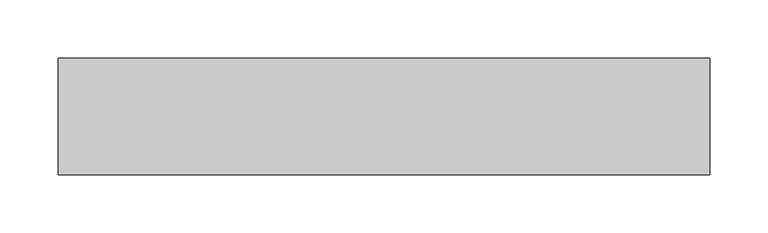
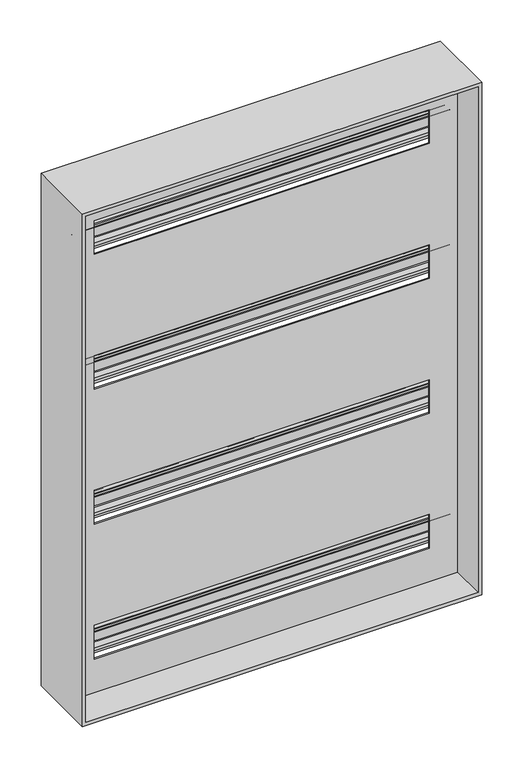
"""IFC4 building model written with IfcOpenShell, lengths in millimetres: electric distribution board geometry, DKC_Панель для модульного оборудования : DKC_Панель для модульного оборудования."""

from ifc_helpers import new_model, si_unit, frame, origin, place, context, project, spatial, polyline, circle_curve, faceted_brep, source, transform, mapped, element, save
from ifc_brep_helpers import plane_surface, cylinder_surface, revolved_surface, advanced_brep


def electric_distribution_board_6eff1b48(model_context):
    return source(origin(), model_context, "Body", "SolidModel", [
        advanced_brep(
        [(-265.0, -86.5000007, 1712.0000024), (-265.0, -96.4963965, 1712.0000024), (-265.0, -98.9999996, 1714.4999998), (-265.0, -99.0, 1717.4999982), (-265.0, -97.5000007, 1717.4999982), (-265.0, -97.5000007, 1714.5), (-265.0, -96.4999987, 1713.4999998), (-265.0, -86.4969876, 1713.499998), (-265.0, -83.9999996, 1710.9999998), (-265.0, -83.9999996, 1688.9999994), (-265.0, -86.5039195, 1686.5000024), (-265.0, -96.4999996, 1686.5000024), (-265.0, -97.4999996, 1685.5000004), (-265.0, -97.5000007, 1682.5000018), (-265.0, -99.0, 1682.5000018), (-265.0, -99.0, 1685.4999994), (-265.0, -96.4974135, 1687.999998), (-265.0, -86.4999996, 1687.999998), (-265.0, -85.4999996, 1689.0000001), (-265.0, -85.4999987, 1710.9999998), (265.0, -86.5000007, 1711.9999998), (265.0, -85.4999996, 1710.9999998), (265.0, -85.4999987, 1689.0000001), (265.0, -86.4999996, 1687.9999994), (265.0, -96.4974135, 1687.999998), (265.0, -98.9999996, 1685.4999994), (265.0, -99.0, 1682.5000018), (265.0, -97.5000007, 1682.5000018), (265.0, -97.5000007, 1685.5000004), (265.0, -96.4999996, 1686.4999994), (265.0, -86.5039195, 1686.5000024), (265.0, -83.9999996, 1688.9999994), (265.0, -83.9999996, 1710.9999998), (265.0, -86.4969876, 1713.499998), (265.0, -96.4999987, 1713.499998), (265.0, -97.4999996, 1714.4999998), (265.0, -97.5000007, 1717.4999982), (265.0, -99.0, 1717.4999982), (265.0, -99.0, 1714.4999998), (265.0, -96.4963965, 1712.0000024)],
        [
            (0, 1),
            (1, 2, circle_curve(frame((-265.0, -96.4999996, 1714.4999998), z_axis=(-1.0, 0.0, 0.0), x_axis=(0.0, 0.0, -1.0)), 2.5)),
            (2, 3),
            (3, 4),
            (4, 5),
            (5, 6, circle_curve(frame((-265.0, -96.4999996, 1714.4999998), z_axis=(1.0, 0.0, 0.0), x_axis=(0.0, 0.0, -1.0)), 1.0)),
            (6, 7),
            (7, 8, circle_curve(frame((-265.0, -86.4999996, 1710.9999998), z_axis=(-1.0, 0.0, 0.0), x_axis=(0.0, 0.0, -1.0)), 2.5)),
            (8, 9),
            (9, 10, circle_curve(frame((-265.0, -86.4999996, 1688.9999994), z_axis=(-1.0, 0.0, 0.0), x_axis=(0.0, 0.0, -1.0)), 2.5)),
            (10, 11),
            (11, 12, circle_curve(frame((-265.0, -96.4999996, 1685.4999994), z_axis=(1.0, 0.0, 0.0), x_axis=(0.0, 0.0, -1.0)), 1.0)),
            (12, 13),
            (13, 14),
            (14, 15),
            (15, 16, circle_curve(frame((-265.0, -96.4999996, 1685.4999994), z_axis=(-1.0, 0.0, 0.0), x_axis=(0.0, 0.0, -1.0)), 2.5)),
            (16, 17),
            (17, 18, circle_curve(frame((-265.0, -86.4999996, 1688.9999994), z_axis=(1.0, 0.0, 0.0), x_axis=(0.0, 0.0, -1.0)), 1.0)),
            (18, 19),
            (19, 0, circle_curve(frame((-265.0, -86.4999996, 1710.9999998), z_axis=(1.0, 0.0, 0.0), x_axis=(0.0, 0.0, -1.0)), 1.0)),
            (20, 21, circle_curve(frame((265.0, -86.4999996, 1710.9999998), z_axis=(-1.0, 0.0, 0.0), x_axis=(0.0, 0.0, -1.0)), 1.0)),
            (21, 22),
            (22, 23, circle_curve(frame((265.0, -86.4999996, 1688.9999994), z_axis=(-1.0, 0.0, 0.0), x_axis=(0.0, 0.0, -1.0)), 1.0)),
            (23, 24),
            (24, 25, circle_curve(frame((265.0, -96.4999996, 1685.4999994), z_axis=(1.0, 0.0, 0.0), x_axis=(0.0, 0.0, -1.0)), 2.5)),
            (25, 26),
            (26, 27),
            (27, 28),
            (28, 29, circle_curve(frame((265.0, -96.4999996, 1685.4999994), z_axis=(-1.0, 0.0, 0.0), x_axis=(0.0, 0.0, -1.0)), 1.0)),
            (29, 30),
            (30, 31, circle_curve(frame((265.0, -86.4999996, 1688.9999994), z_axis=(1.0, 0.0, 0.0), x_axis=(0.0, 0.0, -1.0)), 2.5)),
            (31, 32),
            (32, 33, circle_curve(frame((265.0, -86.4999996, 1710.9999998), z_axis=(1.0, 0.0, 0.0), x_axis=(0.0, 0.0, -1.0)), 2.5)),
            (33, 34),
            (34, 35, circle_curve(frame((265.0, -96.4999996, 1714.4999998), z_axis=(-1.0, 0.0, 0.0), x_axis=(0.0, 0.0, -1.0)), 1.0)),
            (35, 36),
            (36, 37),
            (37, 38),
            (38, 39, circle_curve(frame((265.0, -96.4999996, 1714.4999998), z_axis=(1.0, 0.0, 0.0), x_axis=(0.0, 0.0, -1.0)), 2.5)),
            (39, 20),
            (0, 20),
            (39, 1),
            (38, 2),
            (37, 3),
            (36, 4),
            (35, 5),
            (34, 6),
            (33, 7),
            (32, 8),
            (31, 9),
            (30, 10),
            (29, 11),
            (28, 12),
            (27, 13),
            (26, 14),
            (25, 15),
            (24, 16),
            (23, 17),
            (22, 18),
            (21, 19),
        ],
        [
            plane_surface(frame((-265.0, -96.4963965, 1712.0000024), z_axis=(-1.0, 0.0, 0.0), x_axis=(0.0, -1.0, 0.0))),
            plane_surface(frame((265.0, -96.4963965, 1712.0000024), z_axis=(1.0, 0.0, 0.0), x_axis=(0.0, 1.0, 0.0))),
            plane_surface(frame((-265.0, -86.5000007, 1712.0000024), z_axis=(0.0, 0.0, -1.0), x_axis=(1.0, 0.0, 0.0))),
            cylinder_surface(frame((265.0, -96.4999996, 1714.4999998), z_axis=(-1.0, 0.0, 0.0), x_axis=(0.0, 0.0, -1.0)), 2.5),
            plane_surface(frame((-265.0, -99.0, 1714.4999998), z_axis=(0.0, -1.0, 0.0), x_axis=(1.0, 0.0, 0.0))),
            plane_surface(frame((-265.0, -99.0, 1717.4999982), z_axis=(0.0, 0.0, 1.0), x_axis=(1.0, 0.0, 0.0))),
            plane_surface(frame((-265.0, -97.5000007, 1717.4999982), z_axis=(0.0, 1.0, 0.0), x_axis=(1.0, 0.0, 0.0))),
            revolved_surface(polyline([(265.0, -96.4999996, 1713.4999998), (-265.0, -96.4999996, 1713.4999998)]), (265.0, -96.4999996, 1714.4999998), (1.0, 0.0, 0.0)),
            plane_surface(frame((-265.0, -96.4999987, 1713.499998), z_axis=(0.0, 0.0, 1.0), x_axis=(1.0, 0.0, 0.0))),
            cylinder_surface(frame((265.0, -86.4999996, 1710.9999998), z_axis=(-1.0, 0.0, 0.0), x_axis=(0.0, 0.0, -1.0)), 2.5),
            plane_surface(frame((-265.0, -83.9999996, 1710.9999998), z_axis=(0.0, 1.0, 0.0), x_axis=(1.0, 0.0, 0.0))),
            cylinder_surface(frame((265.0, -86.4999996, 1688.9999994), z_axis=(-1.0, 0.0, 0.0), x_axis=(0.0, 0.0, -1.0)), 2.5),
            plane_surface(frame((-265.0, -86.5039195, 1686.5000024), z_axis=(0.0, 0.0, -1.0), x_axis=(1.0, 0.0, 0.0))),
            revolved_surface(polyline([(265.0, -96.4999996, 1684.4999994), (-265.0, -96.4999996, 1684.4999994)]), (265.0, -96.4999996, 1685.4999994), (1.0, 0.0, 0.0)),
            plane_surface(frame((-265.0, -97.5000007, 1685.5000004), z_axis=(0.0, 1.0, 0.0), x_axis=(1.0, 0.0, 0.0))),
            plane_surface(frame((-265.0, -97.5000007, 1682.5000018), z_axis=(0.0, 0.0, -1.0), x_axis=(1.0, 0.0, 0.0))),
            plane_surface(frame((-265.0, -99.0, 1682.5000018), z_axis=(0.0, -1.0, 0.0), x_axis=(1.0, 0.0, 0.0))),
            cylinder_surface(frame((265.0, -96.4999996, 1685.4999994), z_axis=(-1.0, 0.0, 0.0), x_axis=(0.0, 0.0, -1.0)), 2.5),
            plane_surface(frame((-265.0, -96.4974135, 1687.999998), z_axis=(0.0, 0.0, 1.0), x_axis=(1.0, 0.0, 0.0))),
            revolved_surface(polyline([(265.0, -86.4999996, 1687.9999994), (-265.0, -86.4999996, 1687.9999994)]), (265.0, -86.4999996, 1688.9999994), (1.0, 0.0, 0.0)),
            plane_surface(frame((-265.0, -85.4999987, 1689.0000001), z_axis=(0.0, -1.0, 0.0), x_axis=(1.0, 0.0, 0.0))),
            revolved_surface(polyline([(265.0, -86.4999996, 1709.9999998), (-265.0, -86.4999996, 1709.9999998)]), (265.0, -86.4999996, 1710.9999998), (1.0, 0.0, 0.0)),
        ],
        [
            (0, [[1, 2, 3, 4, 5, 6, 7, 8, 9, 10, 11, 12, 13, 14, 15, 16, 17, 18, 19, 20]]),
            (1, [[21, 22, 23, 24, 25, 26, 27, 28, 29, 30, 31, 32, 33, 34, 35, 36, 37, 38, 39, 40]]),
            (2, [[-1, 41, -40, 42]]),
            (3, [[-2, -42, -39, 43]]),
            (4, [[-3, -43, -38, 44]]),
            (5, [[-4, -44, -37, 45]]),
            (6, [[-5, -45, -36, 46]]),
            (7, [[-6, -46, -35, 47]]),
            (8, [[-7, -47, -34, 48]]),
            (9, [[-8, -48, -33, 49]]),
            (10, [[-9, -49, -32, 50]]),
            (11, [[-10, -50, -31, 51]]),
            (12, [[-11, -51, -30, 52]]),
            (13, [[-12, -52, -29, 53]]),
            (14, [[-13, -53, -28, 54]]),
            (15, [[-14, -54, -27, 55]]),
            (16, [[-15, -55, -26, 56]]),
            (17, [[-16, -56, -25, 57]]),
            (18, [[-17, -57, -24, 58]]),
            (19, [[-18, -58, -23, 59]]),
            (20, [[-19, -59, -22, 60]]),
            (21, [[-20, -60, -21, -41]]),
        ],
    ),
        advanced_brep(
        [(-265.0, -86.5000007, 1512.0000024), (-265.0, -96.4963965, 1512.0000024), (-265.0, -98.9999996, 1514.4999998), (-265.0, -99.0, 1517.4999982), (-265.0, -97.5000007, 1517.4999982), (-265.0, -97.5000007, 1514.5), (-265.0, -96.4999987, 1513.4999998), (-265.0, -86.4969876, 1513.499998), (-265.0, -83.9999996, 1510.9999998), (-265.0, -83.9999996, 1488.9999994), (-265.0, -86.5039195, 1486.5000024), (-265.0, -96.4999996, 1486.5000024), (-265.0, -97.4999996, 1485.5000004), (-265.0, -97.5000007, 1482.5000018), (-265.0, -99.0, 1482.5000018), (-265.0, -99.0, 1485.4999994), (-265.0, -96.4974135, 1487.999998), (-265.0, -86.4999996, 1487.999998), (-265.0, -85.4999996, 1489.0000001), (-265.0, -85.4999987, 1510.9999998), (265.0, -86.5000007, 1511.9999998), (265.0, -85.4999996, 1510.9999998), (265.0, -85.4999987, 1489.0000001), (265.0, -86.4999996, 1487.9999994), (265.0, -96.4974135, 1487.999998), (265.0, -98.9999996, 1485.4999994), (265.0, -99.0, 1482.5000018), (265.0, -97.5000007, 1482.5000018), (265.0, -97.5000007, 1485.5000004), (265.0, -96.4999996, 1486.4999994), (265.0, -86.5039195, 1486.5000024), (265.0, -83.9999996, 1488.9999994), (265.0, -83.9999996, 1510.9999998), (265.0, -86.4969876, 1513.499998), (265.0, -96.4999987, 1513.499998), (265.0, -97.4999996, 1514.4999998), (265.0, -97.5000007, 1517.4999982), (265.0, -99.0, 1517.4999982), (265.0, -99.0, 1514.4999998), (265.0, -96.4963965, 1512.0000024)],
        [
            (0, 1),
            (1, 2, circle_curve(frame((-265.0, -96.4999996, 1514.4999998), z_axis=(-1.0, 0.0, 0.0), x_axis=(0.0, 0.0, -1.0)), 2.5)),
            (2, 3),
            (3, 4),
            (4, 5),
            (5, 6, circle_curve(frame((-265.0, -96.4999996, 1514.4999998), z_axis=(1.0, 0.0, 0.0), x_axis=(0.0, 0.0, -1.0)), 1.0)),
            (6, 7),
            (7, 8, circle_curve(frame((-265.0, -86.4999996, 1510.9999998), z_axis=(-1.0, 0.0, 0.0), x_axis=(0.0, 0.0, -1.0)), 2.5)),
            (8, 9),
            (9, 10, circle_curve(frame((-265.0, -86.4999996, 1488.9999994), z_axis=(-1.0, 0.0, 0.0), x_axis=(0.0, 0.0, -1.0)), 2.5)),
            (10, 11),
            (11, 12, circle_curve(frame((-265.0, -96.4999996, 1485.4999994), z_axis=(1.0, 0.0, 0.0), x_axis=(0.0, 0.0, -1.0)), 1.0)),
            (12, 13),
            (13, 14),
            (14, 15),
            (15, 16, circle_curve(frame((-265.0, -96.4999996, 1485.4999994), z_axis=(-1.0, 0.0, 0.0), x_axis=(0.0, 0.0, -1.0)), 2.5)),
            (16, 17),
            (17, 18, circle_curve(frame((-265.0, -86.4999996, 1488.9999994), z_axis=(1.0, 0.0, 0.0), x_axis=(0.0, 0.0, -1.0)), 1.0)),
            (18, 19),
            (19, 0, circle_curve(frame((-265.0, -86.4999996, 1510.9999998), z_axis=(1.0, 0.0, 0.0), x_axis=(0.0, 0.0, -1.0)), 1.0)),
            (20, 21, circle_curve(frame((265.0, -86.4999996, 1510.9999998), z_axis=(-1.0, 0.0, 0.0), x_axis=(0.0, 0.0, -1.0)), 1.0)),
            (21, 22),
            (22, 23, circle_curve(frame((265.0, -86.4999996, 1488.9999994), z_axis=(-1.0, 0.0, 0.0), x_axis=(0.0, 0.0, -1.0)), 1.0)),
            (23, 24),
            (24, 25, circle_curve(frame((265.0, -96.4999996, 1485.4999994), z_axis=(1.0, 0.0, 0.0), x_axis=(0.0, 0.0, -1.0)), 2.5)),
            (25, 26),
            (26, 27),
            (27, 28),
            (28, 29, circle_curve(frame((265.0, -96.4999996, 1485.4999994), z_axis=(-1.0, 0.0, 0.0), x_axis=(0.0, 0.0, -1.0)), 1.0)),
            (29, 30),
            (30, 31, circle_curve(frame((265.0, -86.4999996, 1488.9999994), z_axis=(1.0, 0.0, 0.0), x_axis=(0.0, 0.0, -1.0)), 2.5)),
            (31, 32),
            (32, 33, circle_curve(frame((265.0, -86.4999996, 1510.9999998), z_axis=(1.0, 0.0, 0.0), x_axis=(0.0, 0.0, -1.0)), 2.5)),
            (33, 34),
            (34, 35, circle_curve(frame((265.0, -96.4999996, 1514.4999998), z_axis=(-1.0, 0.0, 0.0), x_axis=(0.0, 0.0, -1.0)), 1.0)),
            (35, 36),
            (36, 37),
            (37, 38),
            (38, 39, circle_curve(frame((265.0, -96.4999996, 1514.4999998), z_axis=(1.0, 0.0, 0.0), x_axis=(0.0, 0.0, -1.0)), 2.5)),
            (39, 20),
            (0, 20),
            (39, 1),
            (38, 2),
            (37, 3),
            (36, 4),
            (35, 5),
            (34, 6),
            (33, 7),
            (32, 8),
            (31, 9),
            (30, 10),
            (29, 11),
            (28, 12),
            (27, 13),
            (26, 14),
            (25, 15),
            (24, 16),
            (23, 17),
            (22, 18),
            (21, 19),
        ],
        [
            plane_surface(frame((-265.0, -96.4963965, 1512.0000024), z_axis=(-1.0, 0.0, 0.0), x_axis=(0.0, -1.0, 0.0))),
            plane_surface(frame((265.0, -96.4963965, 1512.0000024), z_axis=(1.0, 0.0, 0.0), x_axis=(0.0, 1.0, 0.0))),
            plane_surface(frame((-265.0, -86.5000007, 1512.0000024), z_axis=(0.0, 0.0, -1.0), x_axis=(1.0, 0.0, 0.0))),
            cylinder_surface(frame((265.0, -96.4999996, 1514.4999998), z_axis=(-1.0, 0.0, 0.0), x_axis=(0.0, 0.0, -1.0)), 2.5),
            plane_surface(frame((-265.0, -99.0, 1514.4999998), z_axis=(0.0, -1.0, 0.0), x_axis=(1.0, 0.0, 0.0))),
            plane_surface(frame((-265.0, -99.0, 1517.4999982), z_axis=(0.0, 0.0, 1.0), x_axis=(1.0, 0.0, 0.0))),
            plane_surface(frame((-265.0, -97.5000007, 1517.4999982), z_axis=(0.0, 1.0, 0.0), x_axis=(1.0, 0.0, 0.0))),
            revolved_surface(polyline([(265.0, -96.4999996, 1513.4999998), (-265.0, -96.4999996, 1513.4999998)]), (265.0, -96.4999996, 1514.4999998), (1.0, 0.0, 0.0)),
            plane_surface(frame((-265.0, -96.4999987, 1513.499998), z_axis=(0.0, 0.0, 1.0), x_axis=(1.0, 0.0, 0.0))),
            cylinder_surface(frame((265.0, -86.4999996, 1510.9999998), z_axis=(-1.0, 0.0, 0.0), x_axis=(0.0, 0.0, -1.0)), 2.5),
            plane_surface(frame((-265.0, -83.9999996, 1510.9999998), z_axis=(0.0, 1.0, 0.0), x_axis=(1.0, 0.0, 0.0))),
            cylinder_surface(frame((265.0, -86.4999996, 1488.9999994), z_axis=(-1.0, 0.0, 0.0), x_axis=(0.0, 0.0, -1.0)), 2.5),
            plane_surface(frame((-265.0, -86.5039195, 1486.5000024), z_axis=(0.0, 0.0, -1.0), x_axis=(1.0, 0.0, 0.0))),
            revolved_surface(polyline([(265.0, -96.4999996, 1484.4999994), (-265.0, -96.4999996, 1484.4999994)]), (265.0, -96.4999996, 1485.4999994), (1.0, 0.0, 0.0)),
            plane_surface(frame((-265.0, -97.5000007, 1485.5000004), z_axis=(0.0, 1.0, 0.0), x_axis=(1.0, 0.0, 0.0))),
            plane_surface(frame((-265.0, -97.5000007, 1482.5000018), z_axis=(0.0, 0.0, -1.0), x_axis=(1.0, 0.0, 0.0))),
            plane_surface(frame((-265.0, -99.0, 1482.5000018), z_axis=(0.0, -1.0, 0.0), x_axis=(1.0, 0.0, 0.0))),
            cylinder_surface(frame((265.0, -96.4999996, 1485.4999994), z_axis=(-1.0, 0.0, 0.0), x_axis=(0.0, 0.0, -1.0)), 2.5),
            plane_surface(frame((-265.0, -96.4974135, 1487.999998), z_axis=(0.0, 0.0, 1.0), x_axis=(1.0, 0.0, 0.0))),
            revolved_surface(polyline([(265.0, -86.4999996, 1487.9999994), (-265.0, -86.4999996, 1487.9999994)]), (265.0, -86.4999996, 1488.9999994), (1.0, 0.0, 0.0)),
            plane_surface(frame((-265.0, -85.4999987, 1489.0000001), z_axis=(0.0, -1.0, 0.0), x_axis=(1.0, 0.0, 0.0))),
            revolved_surface(polyline([(265.0, -86.4999996, 1509.9999998), (-265.0, -86.4999996, 1509.9999998)]), (265.0, -86.4999996, 1510.9999998), (1.0, 0.0, 0.0)),
        ],
        [
            (0, [[1, 2, 3, 4, 5, 6, 7, 8, 9, 10, 11, 12, 13, 14, 15, 16, 17, 18, 19, 20]]),
            (1, [[21, 22, 23, 24, 25, 26, 27, 28, 29, 30, 31, 32, 33, 34, 35, 36, 37, 38, 39, 40]]),
            (2, [[-1, 41, -40, 42]]),
            (3, [[-2, -42, -39, 43]]),
            (4, [[-3, -43, -38, 44]]),
            (5, [[-4, -44, -37, 45]]),
            (6, [[-5, -45, -36, 46]]),
            (7, [[-6, -46, -35, 47]]),
            (8, [[-7, -47, -34, 48]]),
            (9, [[-8, -48, -33, 49]]),
            (10, [[-9, -49, -32, 50]]),
            (11, [[-10, -50, -31, 51]]),
            (12, [[-11, -51, -30, 52]]),
            (13, [[-12, -52, -29, 53]]),
            (14, [[-13, -53, -28, 54]]),
            (15, [[-14, -54, -27, 55]]),
            (16, [[-15, -55, -26, 56]]),
            (17, [[-16, -56, -25, 57]]),
            (18, [[-17, -57, -24, 58]]),
            (19, [[-18, -58, -23, 59]]),
            (20, [[-19, -59, -22, 60]]),
            (21, [[-20, -60, -21, -41]]),
        ],
    ),
        advanced_brep(
        [(-265.0, -86.5000007, 1312.0000024), (-265.0, -96.4963965, 1312.0000024), (-265.0, -98.9999996, 1314.4999998), (-265.0, -99.0, 1317.4999982), (-265.0, -97.5000007, 1317.4999982), (-265.0, -97.5000007, 1314.5), (-265.0, -96.4999987, 1313.4999998), (-265.0, -86.4969876, 1313.499998), (-265.0, -83.9999996, 1310.9999998), (-265.0, -83.9999996, 1288.9999994), (-265.0, -86.5039195, 1286.5000024), (-265.0, -96.4999996, 1286.5000024), (-265.0, -97.4999996, 1285.5000004), (-265.0, -97.5000007, 1282.5000018), (-265.0, -99.0, 1282.5000018), (-265.0, -99.0, 1285.4999994), (-265.0, -96.4974135, 1287.999998), (-265.0, -86.4999996, 1287.999998), (-265.0, -85.4999996, 1289.0000001), (-265.0, -85.4999987, 1310.9999998), (265.0, -86.5000007, 1311.9999998), (265.0, -85.4999996, 1310.9999998), (265.0, -85.4999987, 1289.0000001), (265.0, -86.4999996, 1287.9999994), (265.0, -96.4974135, 1287.999998), (265.0, -98.9999996, 1285.4999994), (265.0, -99.0, 1282.5000018), (265.0, -97.5000007, 1282.5000018), (265.0, -97.5000007, 1285.5000004), (265.0, -96.4999996, 1286.4999994), (265.0, -86.5039195, 1286.5000024), (265.0, -83.9999996, 1288.9999994), (265.0, -83.9999996, 1310.9999998), (265.0, -86.4969876, 1313.499998), (265.0, -96.4999987, 1313.499998), (265.0, -97.4999996, 1314.4999998), (265.0, -97.5000007, 1317.4999982), (265.0, -99.0, 1317.4999982), (265.0, -99.0, 1314.4999998), (265.0, -96.4963965, 1312.0000024)],
        [
            (0, 1),
            (1, 2, circle_curve(frame((-265.0, -96.4999996, 1314.4999998), z_axis=(-1.0, 0.0, 0.0), x_axis=(0.0, 0.0, -1.0)), 2.5)),
            (2, 3),
            (3, 4),
            (4, 5),
            (5, 6, circle_curve(frame((-265.0, -96.4999996, 1314.4999998), z_axis=(1.0, 0.0, 0.0), x_axis=(0.0, 0.0, -1.0)), 1.0)),
            (6, 7),
            (7, 8, circle_curve(frame((-265.0, -86.4999996, 1310.9999998), z_axis=(-1.0, 0.0, 0.0), x_axis=(0.0, 0.0, -1.0)), 2.5)),
            (8, 9),
            (9, 10, circle_curve(frame((-265.0, -86.4999996, 1288.9999994), z_axis=(-1.0, 0.0, 0.0), x_axis=(0.0, 0.0, -1.0)), 2.5)),
            (10, 11),
            (11, 12, circle_curve(frame((-265.0, -96.4999996, 1285.4999994), z_axis=(1.0, 0.0, 0.0), x_axis=(0.0, 0.0, -1.0)), 1.0)),
            (12, 13),
            (13, 14),
            (14, 15),
            (15, 16, circle_curve(frame((-265.0, -96.4999996, 1285.4999994), z_axis=(-1.0, 0.0, 0.0), x_axis=(0.0, 0.0, -1.0)), 2.5)),
            (16, 17),
            (17, 18, circle_curve(frame((-265.0, -86.4999996, 1288.9999994), z_axis=(1.0, 0.0, 0.0), x_axis=(0.0, 0.0, -1.0)), 1.0)),
            (18, 19),
            (19, 0, circle_curve(frame((-265.0, -86.4999996, 1310.9999998), z_axis=(1.0, 0.0, 0.0), x_axis=(0.0, 0.0, -1.0)), 1.0)),
            (20, 21, circle_curve(frame((265.0, -86.4999996, 1310.9999998), z_axis=(-1.0, 0.0, 0.0), x_axis=(0.0, 0.0, -1.0)), 1.0)),
            (21, 22),
            (22, 23, circle_curve(frame((265.0, -86.4999996, 1288.9999994), z_axis=(-1.0, 0.0, 0.0), x_axis=(0.0, 0.0, -1.0)), 1.0)),
            (23, 24),
            (24, 25, circle_curve(frame((265.0, -96.4999996, 1285.4999994), z_axis=(1.0, 0.0, 0.0), x_axis=(0.0, 0.0, -1.0)), 2.5)),
            (25, 26),
            (26, 27),
            (27, 28),
            (28, 29, circle_curve(frame((265.0, -96.4999996, 1285.4999994), z_axis=(-1.0, 0.0, 0.0), x_axis=(0.0, 0.0, -1.0)), 1.0)),
            (29, 30),
            (30, 31, circle_curve(frame((265.0, -86.4999996, 1288.9999994), z_axis=(1.0, 0.0, 0.0), x_axis=(0.0, 0.0, -1.0)), 2.5)),
            (31, 32),
            (32, 33, circle_curve(frame((265.0, -86.4999996, 1310.9999998), z_axis=(1.0, 0.0, 0.0), x_axis=(0.0, 0.0, -1.0)), 2.5)),
            (33, 34),
            (34, 35, circle_curve(frame((265.0, -96.4999996, 1314.4999998), z_axis=(-1.0, 0.0, 0.0), x_axis=(0.0, 0.0, -1.0)), 1.0)),
            (35, 36),
            (36, 37),
            (37, 38),
            (38, 39, circle_curve(frame((265.0, -96.4999996, 1314.4999998), z_axis=(1.0, 0.0, 0.0), x_axis=(0.0, 0.0, -1.0)), 2.5)),
            (39, 20),
            (0, 20),
            (39, 1),
            (38, 2),
            (37, 3),
            (36, 4),
            (35, 5),
            (34, 6),
            (33, 7),
            (32, 8),
            (31, 9),
            (30, 10),
            (29, 11),
            (28, 12),
            (27, 13),
            (26, 14),
            (25, 15),
            (24, 16),
            (23, 17),
            (22, 18),
            (21, 19),
        ],
        [
            plane_surface(frame((-265.0, -96.4963965, 1312.0000024), z_axis=(-1.0, 0.0, 0.0), x_axis=(0.0, -1.0, 0.0))),
            plane_surface(frame((265.0, -96.4963965, 1312.0000024), z_axis=(1.0, 0.0, 0.0), x_axis=(0.0, 1.0, 0.0))),
            plane_surface(frame((-265.0, -86.5000007, 1312.0000024), z_axis=(0.0, 0.0, -1.0), x_axis=(1.0, 0.0, 0.0))),
            cylinder_surface(frame((265.0, -96.4999996, 1314.4999998), z_axis=(-1.0, 0.0, 0.0), x_axis=(0.0, 0.0, -1.0)), 2.5),
            plane_surface(frame((-265.0, -99.0, 1314.4999998), z_axis=(0.0, -1.0, 0.0), x_axis=(1.0, 0.0, 0.0))),
            plane_surface(frame((-265.0, -99.0, 1317.4999982), z_axis=(0.0, 0.0, 1.0), x_axis=(1.0, 0.0, 0.0))),
            plane_surface(frame((-265.0, -97.5000007, 1317.4999982), z_axis=(0.0, 1.0, 0.0), x_axis=(1.0, 0.0, 0.0))),
            revolved_surface(polyline([(265.0, -96.4999996, 1313.4999998), (-265.0, -96.4999996, 1313.4999998)]), (265.0, -96.4999996, 1314.4999998), (1.0, 0.0, 0.0)),
            plane_surface(frame((-265.0, -96.4999987, 1313.499998), z_axis=(0.0, 0.0, 1.0), x_axis=(1.0, 0.0, 0.0))),
            cylinder_surface(frame((265.0, -86.4999996, 1310.9999998), z_axis=(-1.0, 0.0, 0.0), x_axis=(0.0, 0.0, -1.0)), 2.5),
            plane_surface(frame((-265.0, -83.9999996, 1310.9999998), z_axis=(0.0, 1.0, 0.0), x_axis=(1.0, 0.0, 0.0))),
            cylinder_surface(frame((265.0, -86.4999996, 1288.9999994), z_axis=(-1.0, 0.0, 0.0), x_axis=(0.0, 0.0, -1.0)), 2.5),
            plane_surface(frame((-265.0, -86.5039195, 1286.5000024), z_axis=(0.0, 0.0, -1.0), x_axis=(1.0, 0.0, 0.0))),
            revolved_surface(polyline([(265.0, -96.4999996, 1284.4999994), (-265.0, -96.4999996, 1284.4999994)]), (265.0, -96.4999996, 1285.4999994), (1.0, 0.0, 0.0)),
            plane_surface(frame((-265.0, -97.5000007, 1285.5000004), z_axis=(0.0, 1.0, 0.0), x_axis=(1.0, 0.0, 0.0))),
            plane_surface(frame((-265.0, -97.5000007, 1282.5000018), z_axis=(0.0, 0.0, -1.0), x_axis=(1.0, 0.0, 0.0))),
            plane_surface(frame((-265.0, -99.0, 1282.5000018), z_axis=(0.0, -1.0, 0.0), x_axis=(1.0, 0.0, 0.0))),
            cylinder_surface(frame((265.0, -96.4999996, 1285.4999994), z_axis=(-1.0, 0.0, 0.0), x_axis=(0.0, 0.0, -1.0)), 2.5),
            plane_surface(frame((-265.0, -96.4974135, 1287.999998), z_axis=(0.0, 0.0, 1.0), x_axis=(1.0, 0.0, 0.0))),
            revolved_surface(polyline([(265.0, -86.4999996, 1287.9999994), (-265.0, -86.4999996, 1287.9999994)]), (265.0, -86.4999996, 1288.9999994), (1.0, 0.0, 0.0)),
            plane_surface(frame((-265.0, -85.4999987, 1289.0000001), z_axis=(0.0, -1.0, 0.0), x_axis=(1.0, 0.0, 0.0))),
            revolved_surface(polyline([(265.0, -86.4999996, 1309.9999998), (-265.0, -86.4999996, 1309.9999998)]), (265.0, -86.4999996, 1310.9999998), (1.0, 0.0, 0.0)),
        ],
        [
            (0, [[1, 2, 3, 4, 5, 6, 7, 8, 9, 10, 11, 12, 13, 14, 15, 16, 17, 18, 19, 20]]),
            (1, [[21, 22, 23, 24, 25, 26, 27, 28, 29, 30, 31, 32, 33, 34, 35, 36, 37, 38, 39, 40]]),
            (2, [[-1, 41, -40, 42]]),
            (3, [[-2, -42, -39, 43]]),
            (4, [[-3, -43, -38, 44]]),
            (5, [[-4, -44, -37, 45]]),
            (6, [[-5, -45, -36, 46]]),
            (7, [[-6, -46, -35, 47]]),
            (8, [[-7, -47, -34, 48]]),
            (9, [[-8, -48, -33, 49]]),
            (10, [[-9, -49, -32, 50]]),
            (11, [[-10, -50, -31, 51]]),
            (12, [[-11, -51, -30, 52]]),
            (13, [[-12, -52, -29, 53]]),
            (14, [[-13, -53, -28, 54]]),
            (15, [[-14, -54, -27, 55]]),
            (16, [[-15, -55, -26, 56]]),
            (17, [[-16, -56, -25, 57]]),
            (18, [[-17, -57, -24, 58]]),
            (19, [[-18, -58, -23, 59]]),
            (20, [[-19, -59, -22, 60]]),
            (21, [[-20, -60, -21, -41]]),
        ],
    ),
        advanced_brep(
        [(-265.0, -86.5000007, 1112.0000024), (-265.0, -96.4963965, 1112.0000024), (-265.0, -98.9999996, 1114.4999998), (-265.0, -99.0, 1117.4999982), (-265.0, -97.5000007, 1117.4999982), (-265.0, -97.5000007, 1114.5), (-265.0, -96.4999987, 1113.4999998), (-265.0, -86.4969876, 1113.499998), (-265.0, -83.9999996, 1110.9999998), (-265.0, -83.9999996, 1088.9999994), (-265.0, -86.5039195, 1086.5000024), (-265.0, -96.4999996, 1086.5000024), (-265.0, -97.4999996, 1085.5000004), (-265.0, -97.5000007, 1082.5000018), (-265.0, -99.0, 1082.5000018), (-265.0, -99.0, 1085.4999994), (-265.0, -96.4974135, 1087.999998), (-265.0, -86.4999996, 1087.999998), (-265.0, -85.4999996, 1089.0000001), (-265.0, -85.4999987, 1110.9999998), (265.0, -86.5000007, 1111.9999998), (265.0, -85.4999996, 1110.9999998), (265.0, -85.4999987, 1089.0000001), (265.0, -86.4999996, 1087.9999994), (265.0, -96.4974135, 1087.999998), (265.0, -98.9999996, 1085.4999994), (265.0, -99.0, 1082.5000018), (265.0, -97.5000007, 1082.5000018), (265.0, -97.5000007, 1085.5000004), (265.0, -96.4999996, 1086.4999994), (265.0, -86.5039195, 1086.5000024), (265.0, -83.9999996, 1088.9999994), (265.0, -83.9999996, 1110.9999998), (265.0, -86.4969876, 1113.499998), (265.0, -96.4999987, 1113.499998), (265.0, -97.4999996, 1114.4999998), (265.0, -97.5000007, 1117.4999982), (265.0, -99.0, 1117.4999982), (265.0, -99.0, 1114.4999998), (265.0, -96.4963965, 1112.0000024)],
        [
            (0, 1),
            (1, 2, circle_curve(frame((-265.0, -96.4999996, 1114.4999998), z_axis=(-1.0, 0.0, 0.0), x_axis=(0.0, 0.0, -1.0)), 2.5)),
            (2, 3),
            (3, 4),
            (4, 5),
            (5, 6, circle_curve(frame((-265.0, -96.4999996, 1114.4999998), z_axis=(1.0, 0.0, 0.0), x_axis=(0.0, 0.0, -1.0)), 1.0)),
            (6, 7),
            (7, 8, circle_curve(frame((-265.0, -86.4999996, 1110.9999998), z_axis=(-1.0, 0.0, 0.0), x_axis=(0.0, 0.0, -1.0)), 2.5)),
            (8, 9),
            (9, 10, circle_curve(frame((-265.0, -86.4999996, 1088.9999994), z_axis=(-1.0, 0.0, 0.0), x_axis=(0.0, 0.0, -1.0)), 2.5)),
            (10, 11),
            (11, 12, circle_curve(frame((-265.0, -96.4999996, 1085.4999994), z_axis=(1.0, 0.0, 0.0), x_axis=(0.0, 0.0, -1.0)), 1.0)),
            (12, 13),
            (13, 14),
            (14, 15),
            (15, 16, circle_curve(frame((-265.0, -96.4999996, 1085.4999994), z_axis=(-1.0, 0.0, 0.0), x_axis=(0.0, 0.0, -1.0)), 2.5)),
            (16, 17),
            (17, 18, circle_curve(frame((-265.0, -86.4999996, 1088.9999994), z_axis=(1.0, 0.0, 0.0), x_axis=(0.0, 0.0, -1.0)), 1.0)),
            (18, 19),
            (19, 0, circle_curve(frame((-265.0, -86.4999996, 1110.9999998), z_axis=(1.0, 0.0, 0.0), x_axis=(0.0, 0.0, -1.0)), 1.0)),
            (20, 21, circle_curve(frame((265.0, -86.4999996, 1110.9999998), z_axis=(-1.0, 0.0, 0.0), x_axis=(0.0, 0.0, -1.0)), 1.0)),
            (21, 22),
            (22, 23, circle_curve(frame((265.0, -86.4999996, 1088.9999994), z_axis=(-1.0, 0.0, 0.0), x_axis=(0.0, 0.0, -1.0)), 1.0)),
            (23, 24),
            (24, 25, circle_curve(frame((265.0, -96.4999996, 1085.4999994), z_axis=(1.0, 0.0, 0.0), x_axis=(0.0, 0.0, -1.0)), 2.5)),
            (25, 26),
            (26, 27),
            (27, 28),
            (28, 29, circle_curve(frame((265.0, -96.4999996, 1085.4999994), z_axis=(-1.0, 0.0, 0.0), x_axis=(0.0, 0.0, -1.0)), 1.0)),
            (29, 30),
            (30, 31, circle_curve(frame((265.0, -86.4999996, 1088.9999994), z_axis=(1.0, 0.0, 0.0), x_axis=(0.0, 0.0, -1.0)), 2.5)),
            (31, 32),
            (32, 33, circle_curve(frame((265.0, -86.4999996, 1110.9999998), z_axis=(1.0, 0.0, 0.0), x_axis=(0.0, 0.0, -1.0)), 2.5)),
            (33, 34),
            (34, 35, circle_curve(frame((265.0, -96.4999996, 1114.4999998), z_axis=(-1.0, 0.0, 0.0), x_axis=(0.0, 0.0, -1.0)), 1.0)),
            (35, 36),
            (36, 37),
            (37, 38),
            (38, 39, circle_curve(frame((265.0, -96.4999996, 1114.4999998), z_axis=(1.0, 0.0, 0.0), x_axis=(0.0, 0.0, -1.0)), 2.5)),
            (39, 20),
            (0, 20),
            (39, 1),
            (38, 2),
            (37, 3),
            (36, 4),
            (35, 5),
            (34, 6),
            (33, 7),
            (32, 8),
            (31, 9),
            (30, 10),
            (29, 11),
            (28, 12),
            (27, 13),
            (26, 14),
            (25, 15),
            (24, 16),
            (23, 17),
            (22, 18),
            (21, 19),
        ],
        [
            plane_surface(frame((-265.0, -96.4963965, 1112.0000024), z_axis=(-1.0, 0.0, 0.0), x_axis=(0.0, -1.0, 0.0))),
            plane_surface(frame((265.0, -96.4963965, 1112.0000024), z_axis=(1.0, 0.0, 0.0), x_axis=(0.0, 1.0, 0.0))),
            plane_surface(frame((-265.0, -86.5000007, 1112.0000024), z_axis=(0.0, 0.0, -1.0), x_axis=(1.0, 0.0, 0.0))),
            cylinder_surface(frame((265.0, -96.4999996, 1114.4999998), z_axis=(-1.0, 0.0, 0.0), x_axis=(0.0, 0.0, -1.0)), 2.5),
            plane_surface(frame((-265.0, -99.0, 1114.4999998), z_axis=(0.0, -1.0, 0.0), x_axis=(1.0, 0.0, 0.0))),
            plane_surface(frame((-265.0, -99.0, 1117.4999982), z_axis=(0.0, 0.0, 1.0), x_axis=(1.0, 0.0, 0.0))),
            plane_surface(frame((-265.0, -97.5000007, 1117.4999982), z_axis=(0.0, 1.0, 0.0), x_axis=(1.0, 0.0, 0.0))),
            revolved_surface(polyline([(265.0, -96.4999996, 1113.4999998), (-265.0, -96.4999996, 1113.4999998)]), (265.0, -96.4999996, 1114.4999998), (1.0, 0.0, 0.0)),
            plane_surface(frame((-265.0, -96.4999987, 1113.499998), z_axis=(0.0, 0.0, 1.0), x_axis=(1.0, 0.0, 0.0))),
            cylinder_surface(frame((265.0, -86.4999996, 1110.9999998), z_axis=(-1.0, 0.0, 0.0), x_axis=(0.0, 0.0, -1.0)), 2.5),
            plane_surface(frame((-265.0, -83.9999996, 1110.9999998), z_axis=(0.0, 1.0, 0.0), x_axis=(1.0, 0.0, 0.0))),
            cylinder_surface(frame((265.0, -86.4999996, 1088.9999994), z_axis=(-1.0, 0.0, 0.0), x_axis=(0.0, 0.0, -1.0)), 2.5),
            plane_surface(frame((-265.0, -86.5039195, 1086.5000024), z_axis=(0.0, 0.0, -1.0), x_axis=(1.0, 0.0, 0.0))),
            revolved_surface(polyline([(265.0, -96.4999996, 1084.4999994), (-265.0, -96.4999996, 1084.4999994)]), (265.0, -96.4999996, 1085.4999994), (1.0, 0.0, 0.0)),
            plane_surface(frame((-265.0, -97.5000007, 1085.5000004), z_axis=(0.0, 1.0, 0.0), x_axis=(1.0, 0.0, 0.0))),
            plane_surface(frame((-265.0, -97.5000007, 1082.5000018), z_axis=(0.0, 0.0, -1.0), x_axis=(1.0, 0.0, 0.0))),
            plane_surface(frame((-265.0, -99.0, 1082.5000018), z_axis=(0.0, -1.0, 0.0), x_axis=(1.0, 0.0, 0.0))),
            cylinder_surface(frame((265.0, -96.4999996, 1085.4999994), z_axis=(-1.0, 0.0, 0.0), x_axis=(0.0, 0.0, -1.0)), 2.5),
            plane_surface(frame((-265.0, -96.4974135, 1087.999998), z_axis=(0.0, 0.0, 1.0), x_axis=(1.0, 0.0, 0.0))),
            revolved_surface(polyline([(265.0, -86.4999996, 1087.9999994), (-265.0, -86.4999996, 1087.9999994)]), (265.0, -86.4999996, 1088.9999994), (1.0, 0.0, 0.0)),
            plane_surface(frame((-265.0, -85.4999987, 1089.0000001), z_axis=(0.0, -1.0, 0.0), x_axis=(1.0, 0.0, 0.0))),
            revolved_surface(polyline([(265.0, -86.4999996, 1109.9999998), (-265.0, -86.4999996, 1109.9999998)]), (265.0, -86.4999996, 1110.9999998), (1.0, 0.0, 0.0)),
        ],
        [
            (0, [[1, 2, 3, 4, 5, 6, 7, 8, 9, 10, 11, 12, 13, 14, 15, 16, 17, 18, 19, 20]]),
            (1, [[21, 22, 23, 24, 25, 26, 27, 28, 29, 30, 31, 32, 33, 34, 35, 36, 37, 38, 39, 40]]),
            (2, [[-1, 41, -40, 42]]),
            (3, [[-2, -42, -39, 43]]),
            (4, [[-3, -43, -38, 44]]),
            (5, [[-4, -44, -37, 45]]),
            (6, [[-5, -45, -36, 46]]),
            (7, [[-6, -46, -35, 47]]),
            (8, [[-7, -47, -34, 48]]),
            (9, [[-8, -48, -33, 49]]),
            (10, [[-9, -49, -32, 50]]),
            (11, [[-10, -50, -31, 51]]),
            (12, [[-11, -51, -30, 52]]),
            (13, [[-12, -52, -29, 53]]),
            (14, [[-13, -53, -28, 54]]),
            (15, [[-14, -54, -27, 55]]),
            (16, [[-15, -55, -26, 56]]),
            (17, [[-16, -56, -25, 57]]),
            (18, [[-17, -57, -24, 58]]),
            (19, [[-18, -58, -23, 59]]),
            (20, [[-19, -59, -22, 60]]),
            (21, [[-20, -60, -21, -41]]),
        ],
    ),
        faceted_brep([(280.0, -150.0, 1780.0), (-280.0, -150.0, 1780.0), (-280.0, -150.0, 1020.0), (280.0, -150.0, 1020.0), (-275.0, -150.0, 1025.0), (-275.0, -150.0, 1775.0), (275.0, -150.0, 1775.0), (275.0, -150.0, 1025.0), (280.0, -50.0, 1780.0), (280.0, -50.0, 1020.0), (-280.0, -50.0, 1020.0), (-280.0, -50.0, 1780.0), (-275.0, -50.0, 1025.0), (275.0, -50.0, 1025.0), (275.0, -50.0, 1775.0), (-275.0, -50.0, 1775.0), (-275.0, -101.0, 1025.0), (-275.0, -101.0, 1775.0), (-275.0, -99.0, 1775.0), (-275.0, -99.0, 1025.0), (275.0, -101.0, 1775.0), (275.0, -99.0, 1775.0), (275.0, -101.0, 1025.0), (275.0, -99.0, 1025.0), (235.0, -99.0, 1275.0), (235.0, -99.0, 1325.0), (-235.0, -99.0, 1325.0), (-235.0, -99.0, 1275.0), (235.0, -99.0, 1475.0), (235.0, -99.0, 1525.0), (-235.0, -99.0, 1525.0), (-235.0, -99.0, 1475.0), (235.0, -99.0, 1075.0), (235.0, -99.0, 1125.0), (-235.0, -99.0, 1125.0), (-235.0, -99.0, 1075.0), (235.0, -99.0, 1675.0), (235.0, -99.0, 1725.0), (-235.0, -99.0, 1725.0), (-235.0, -99.0, 1675.0), (235.0, -101.0, 1325.0), (235.0, -101.0, 1275.0), (-235.0, -101.0, 1275.0), (-235.0, -101.0, 1325.0), (235.0, -101.0, 1525.0), (235.0, -101.0, 1475.0), (-235.0, -101.0, 1475.0), (-235.0, -101.0, 1525.0), (235.0, -101.0, 1125.0), (235.0, -101.0, 1075.0), (-235.0, -101.0, 1075.0), (-235.0, -101.0, 1125.0), (235.0, -101.0, 1725.0), (235.0, -101.0, 1675.0), (-235.0, -101.0, 1675.0), (-235.0, -101.0, 1725.0)], [[[0, 1, 2, 3], [4, 5, 6, 7]], [[8, 9, 10, 11], [12, 13, 14, 15]], [[5, 4, 16, 17]], [[12, 15, 18, 19]], [[6, 5, 17, 20]], [[15, 14, 21, 18]], [[7, 6, 20, 22]], [[14, 13, 23, 21]], [[4, 7, 22, 16]], [[13, 12, 19, 23]], [[19, 18, 21, 23], [24, 25, 26, 27], [28, 29, 30, 31], [32, 33, 34, 35], [36, 37, 38, 39]], [[17, 16, 22, 20], [40, 41, 42, 43], [44, 45, 46, 47], [48, 49, 50, 51], [52, 53, 54, 55]], [[1, 0, 8, 11]], [[1, 11, 10, 2]], [[2, 10, 9, 3]], [[8, 0, 3, 9]], [[25, 24, 41, 40]], [[24, 27, 42, 41]], [[27, 26, 43, 42]], [[26, 25, 40, 43]], [[29, 28, 45, 44]], [[28, 31, 46, 45]], [[31, 30, 47, 46]], [[30, 29, 44, 47]], [[33, 32, 49, 48]], [[32, 35, 50, 49]], [[35, 34, 51, 50]], [[34, 33, 48, 51]], [[37, 36, 53, 52]], [[36, 39, 54, 53]], [[39, 38, 55, 54]], [[38, 37, 52, 55]]]),
    ])


if __name__ == "__main__":
    model = new_model("IFC4")
    model_context = context("Model", 3, world=origin())
    ifc_project = project(units=[si_unit("LENGTHUNIT", "METRE", prefix="MILLI")], contexts=[model_context])
    site = spatial("IfcSite", under=ifc_project)
    building = spatial("IfcBuilding", under=site)
    placement = place(None, origin())
    electric_distribution_board_shape = electric_distribution_board_6eff1b48(model_context)
    element("IfcElectricDistributionBoard", 1, ObjectType="DKC_Панель для модульного оборудования : DKC_Панель для модульного оборудования", at=placement, inside=building, context=model_context, shape_type="MappedRepresentation", body=[
        mapped(electric_distribution_board_shape, transform((0.0, 0.0, 0.0), x_axis=(1.0, 0.0, 0.0), y_axis=(0.0, 1.0, 0.0), z_axis=(0.0, 0.0, 1.0))),
    ])
    save(model, "model.ifc")
